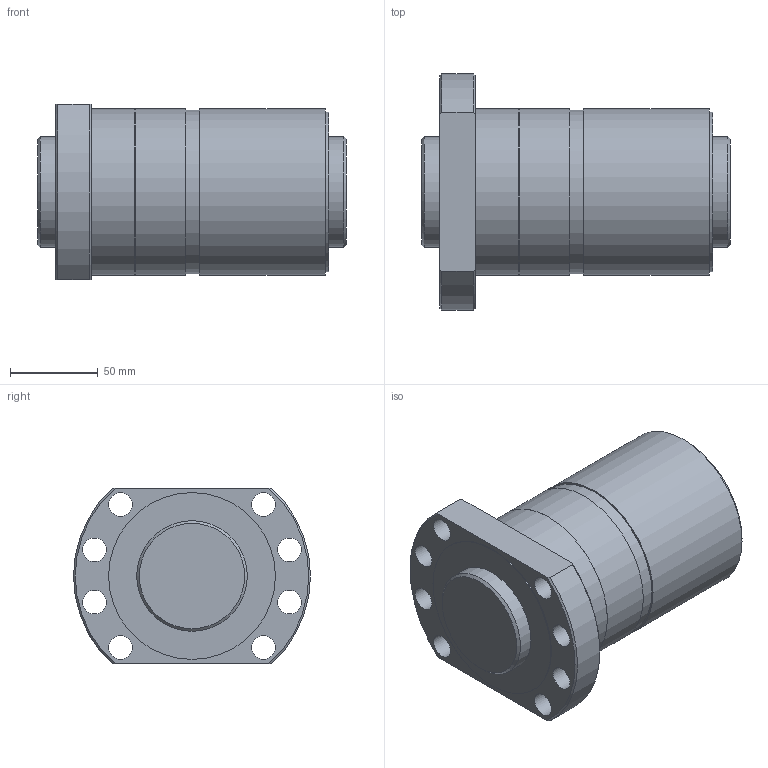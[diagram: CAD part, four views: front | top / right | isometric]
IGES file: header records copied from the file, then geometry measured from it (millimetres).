
Start section: Data from Parasolid IGES Translator 26.0.171, Copyright(c) 2006 Siemens PLM Software. All Rights Reserved.
Global section: file name: SDAN6316VX-4G0+176LC0(0G000).igs; native system: By Siemens PLM Incorporated; preprocessor: XPlus GENERIC/IGES 26.0.171; author: Noname; organization: Noname; date: 20240704.102307; units: millimetre
Bounding box: 176 x 135 x 100 mm (x, y, z)
Surface area: 144365.7 mm2 (no closed solid volume)
Topology: 0 solids, 0 shells, 41 faces, 178 edges, 150 vertices
Faces by surface type: revolution 28, extrusion 13
